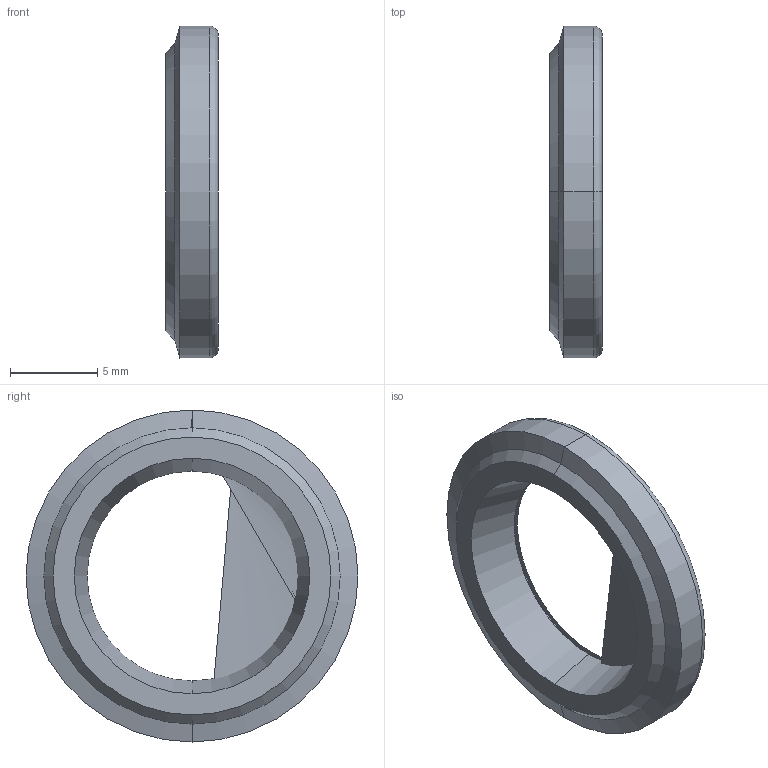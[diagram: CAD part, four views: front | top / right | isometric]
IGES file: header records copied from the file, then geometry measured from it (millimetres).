
Start section: 3D InterOp IGES (Version 21 0 1), Spatial Corp. Copyright (c) 1999-2007.
Global section: file name: R133181210.igs; native system: Spatial Corp.; preprocessor: 3D InterOp GENERIC/IGES 3.0; author: Noname; organization: Noname; date: 20220217.161601; units: millimetre
Bounding box: 3 x 19 x 19 mm (x, y, z)
Surface area: 584.3 mm2 (no closed solid volume)
Topology: 0 solids, 0 shells, 20 faces, 80 edges, 80 vertices
Faces by surface type: revolution 16, extrusion 4
